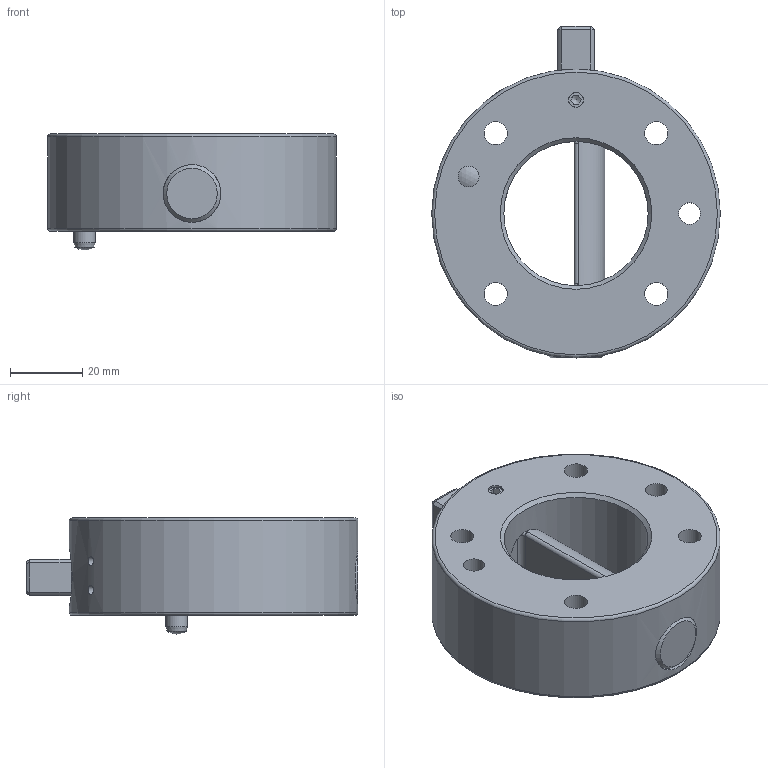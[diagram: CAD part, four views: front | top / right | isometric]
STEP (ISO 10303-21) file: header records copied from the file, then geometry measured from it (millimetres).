
FILE_DESCRIPTION((''),'2;1');
FILE_NAME('T:\CAD\Standard\Daten\3D-Datenbank\SWS\SWS080\step-Daten\G-SWS080-2O.stp','2011-08-19T10:53:32',('Yvonne'),(''),'Autodesk Inventor 2011','Autodesk Inventor 2011','');
FILE_SCHEMA(('AUTOMOTIVE_DESIGN { 1 0 10303 214 1 1 1 1 }'));
Length unit declared in the file: millimetre
Products named in the file (1): Bauteil5
Bounding box: 80 x 92 x 32.17 mm (x, y, z)
Volume: 100303.8 mm3; surface area: 23108.2 mm2
Topology: 1 solids, 1 shells, 95 faces, 227 edges, 141 vertices
Faces by surface type: cylinder 38, plane 32, cone 15, bspline 4, torus 4, sphere 2
Full cylindrical faces by diameter (mm): 2.459 x2, 3.5 x1, 4.134 x3, 5.8 x1, 6 x2, 6.4 x4, 11 x4, 16 x2, 40 x1, 80 x1
Entity records: 3040 total; most frequent: CARTESIAN_POINT 969, DIRECTION 394, ORIENTED_EDGE 354, EDGE_CURVE 177, AXIS2_PLACEMENT_3D 173, EDGE_LOOP 154, VERTEX_POINT 125, STYLED_ITEM 96
